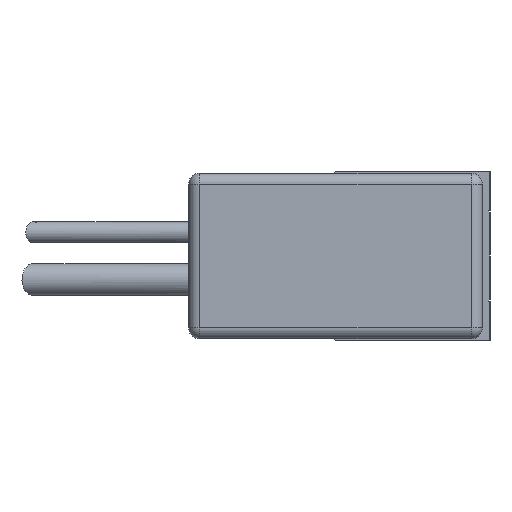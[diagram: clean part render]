
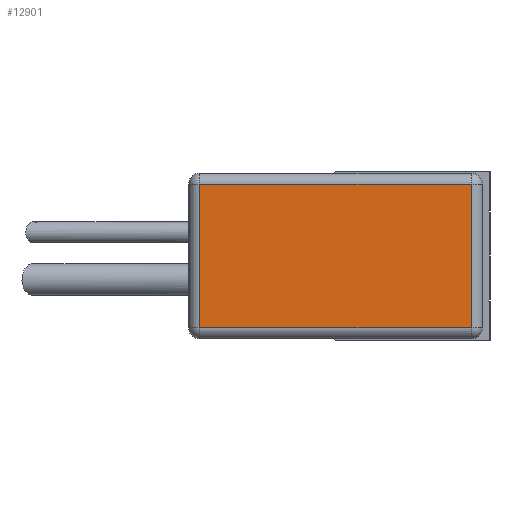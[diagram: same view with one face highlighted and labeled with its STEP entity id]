
A CAD part, left-side view. The second image highlights one B-rep face of the part: STEP entity #12901.
In plain terms, the highlighted planar face has unit normal (-1, 0, 0) as drawn and (0, 0, -1) by its records, which use the part's own axes.
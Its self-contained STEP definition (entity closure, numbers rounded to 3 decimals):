
#782=PLANE('',#21181);
#2440=VERTEX_POINT('',#19908);
#2441=VERTEX_POINT('',#19912);
#2445=VERTEX_POINT('',#19920);
#2450=VERTEX_POINT('',#19933);
#3800=VECTOR('',#16130,1.);
#3802=VECTOR('',#16134,1.);
#3804=VECTOR('',#16138,1.);
#3807=VECTOR('',#16145,1.);
#5141=LINE('',#19945,#3800);
#5143=LINE('',#19948,#3802);
#5145=LINE('',#19951,#3804);
#5148=LINE('',#19956,#3807);
#6910=EDGE_CURVE('',#2441,#2450,#5141,.T.);
#6912=EDGE_CURVE('',#2450,#2445,#5143,.T.);
#6914=EDGE_CURVE('',#2445,#2440,#5145,.T.);
#6917=EDGE_CURVE('',#2440,#2441,#5148,.T.);
#10463=ORIENTED_EDGE('',*,*,#6910,.F.);
#10464=ORIENTED_EDGE('',*,*,#6917,.F.);
#10465=ORIENTED_EDGE('',*,*,#6914,.F.);
#10466=ORIENTED_EDGE('',*,*,#6912,.F.);
#11351=EDGE_LOOP('',(#10463,#10464,#10465,#10466));
#12174=FACE_BOUND('',#11351,.T.);
#12901=ADVANCED_FACE('',(#12174),#782,.T.);
#16130=DIRECTION('',(0.,-1.,0.));
#16134=DIRECTION('',(1.,0.,0.));
#16138=DIRECTION('',(0.,1.,0.));
#16145=DIRECTION('',(-1.,0.,0.));
#16167=DIRECTION('',(0.,0.,-1.));
#19908=CARTESIAN_POINT('',(1.9,5.2,-9.1));
#19912=CARTESIAN_POINT('',(-1.9,5.2,-9.1));
#19920=CARTESIAN_POINT('',(1.9,-2.,-9.1));
#19933=CARTESIAN_POINT('',(-1.9,-2.,-9.1));
#19945=CARTESIAN_POINT('',(-1.9,3.125,-9.1));
#19948=CARTESIAN_POINT('',(-2.,-2.,-9.1));
#19951=CARTESIAN_POINT('',(1.9,0.1,-9.1));
#19956=CARTESIAN_POINT('',(-1.1,5.2,-9.1));
#19983=CARTESIAN_POINT('',(-2.2,2.1,-9.1));
#21181=AXIS2_PLACEMENT_3D('',#19983,#16167,$);
